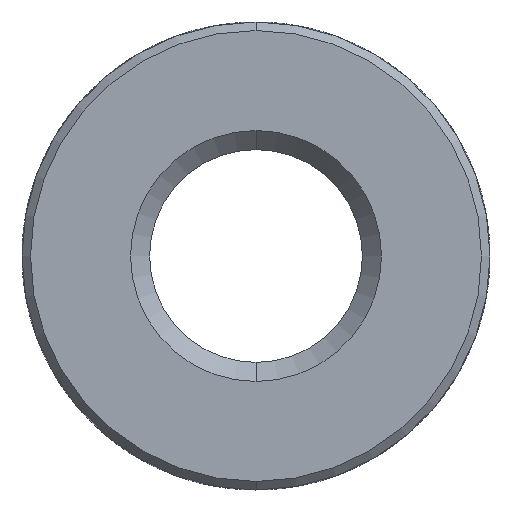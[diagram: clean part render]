
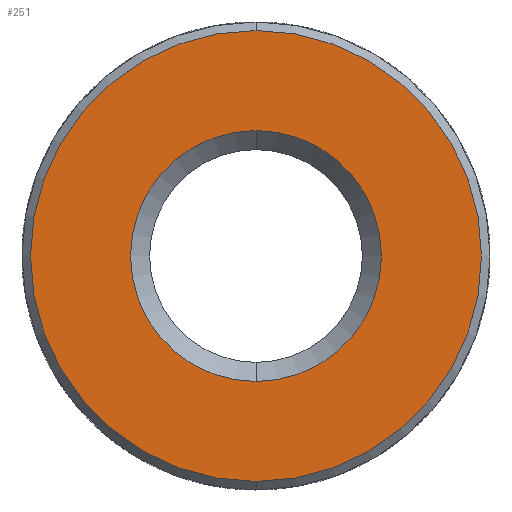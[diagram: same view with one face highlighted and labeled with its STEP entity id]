
A CAD part, front view. The second image highlights one B-rep face of the part: STEP entity #251.
In plain terms, the highlighted planar face has unit normal (0, -1, 0).
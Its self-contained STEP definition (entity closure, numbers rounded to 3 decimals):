
#85 = FACE_OUTER_BOUND ( 'NONE', #1818, .T. ) ;
#98 = VERTEX_POINT ( 'NONE', #1801 ) ;
#251 = ADVANCED_FACE ( 'NONE', ( #85, #2309 ), #841, .T. ) ;
#306 = EDGE_CURVE ( 'NONE', #360, #98, #3318, .T. ) ;
#360 = VERTEX_POINT ( 'NONE', #3514 ) ;
#472 = DIRECTION ( 'NONE',  ( 0., -1., 0. ) ) ;
#507 = DIRECTION ( 'NONE',  ( 0., 0., -1. ) ) ;
#751 = CARTESIAN_POINT ( 'NONE',  ( 0., -4.3, 0. ) ) ;
#841 = PLANE ( 'NONE',  #986 ) ;
#846 = CIRCLE ( 'NONE', #1894, 2.65 ) ;
#847 = VERTEX_POINT ( 'NONE', #2851 ) ;
#919 = AXIS2_PLACEMENT_3D ( 'NONE', #1109, #2355, #507 ) ;
#986 = AXIS2_PLACEMENT_3D ( 'NONE', #1970, #2949, #1332 ) ;
#1016 = DIRECTION ( 'NONE',  ( 0., 0., -1. ) ) ;
#1109 = CARTESIAN_POINT ( 'NONE',  ( 0., -4.3, 0. ) ) ;
#1225 = AXIS2_PLACEMENT_3D ( 'NONE', #751, #3832, #1016 ) ;
#1332 = DIRECTION ( 'NONE',  ( 0., 0., -1. ) ) ;
#1348 = CIRCLE ( 'NONE', #919, 1.475 ) ;
#1571 = ORIENTED_EDGE ( 'NONE', *, *, #306, .T. ) ;
#1764 = AXIS2_PLACEMENT_3D ( 'NONE', #2635, #472, #2066 ) ;
#1801 = CARTESIAN_POINT ( 'NONE',  ( 0., -4.3, -1.475 ) ) ;
#1818 = EDGE_LOOP ( 'NONE', ( #2863, #3302 ) ) ;
#1894 = AXIS2_PLACEMENT_3D ( 'NONE', #3717, #3394, #3109 ) ;
#1970 = CARTESIAN_POINT ( 'NONE',  ( 0., -4.3, 2.75 ) ) ;
#2066 = DIRECTION ( 'NONE',  ( 0., 0., -1. ) ) ;
#2177 = EDGE_CURVE ( 'NONE', #98, #360, #1348, .T. ) ;
#2192 = VERTEX_POINT ( 'NONE', #3287 ) ;
#2309 = FACE_BOUND ( 'NONE', #2867, .T. ) ;
#2355 = DIRECTION ( 'NONE',  ( 0., 1., 0. ) ) ;
#2377 = CIRCLE ( 'NONE', #1764, 2.65 ) ;
#2612 = EDGE_CURVE ( 'NONE', #847, #2192, #846, .T. ) ;
#2635 = CARTESIAN_POINT ( 'NONE',  ( 0., -4.3, 0. ) ) ;
#2851 = CARTESIAN_POINT ( 'NONE',  ( 0., -4.3, -2.65 ) ) ;
#2863 = ORIENTED_EDGE ( 'NONE', *, *, #3545, .T. ) ;
#2867 = EDGE_LOOP ( 'NONE', ( #3596, #1571 ) ) ;
#2949 = DIRECTION ( 'NONE',  ( 0., -1., 0. ) ) ;
#3109 = DIRECTION ( 'NONE',  ( 0., 0., -1. ) ) ;
#3287 = CARTESIAN_POINT ( 'NONE',  ( 0., -4.3, 2.65 ) ) ;
#3302 = ORIENTED_EDGE ( 'NONE', *, *, #2612, .T. ) ;
#3318 = CIRCLE ( 'NONE', #1225, 1.475 ) ;
#3394 = DIRECTION ( 'NONE',  ( 0., -1., 0. ) ) ;
#3514 = CARTESIAN_POINT ( 'NONE',  ( 0., -4.3, 1.475 ) ) ;
#3545 = EDGE_CURVE ( 'NONE', #2192, #847, #2377, .T. ) ;
#3596 = ORIENTED_EDGE ( 'NONE', *, *, #2177, .T. ) ;
#3717 = CARTESIAN_POINT ( 'NONE',  ( 0., -4.3, 0. ) ) ;
#3832 = DIRECTION ( 'NONE',  ( 0., 1., 0. ) ) ;
